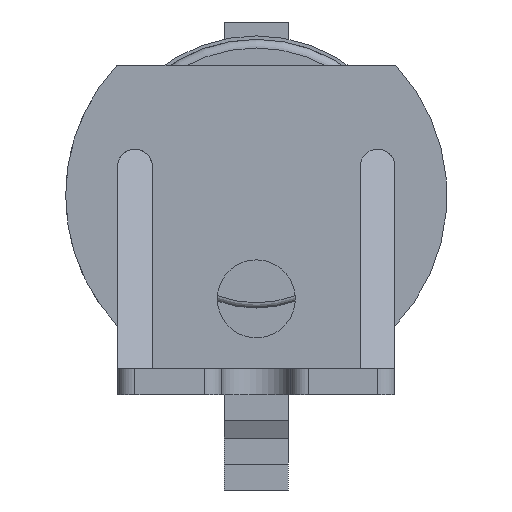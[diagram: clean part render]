
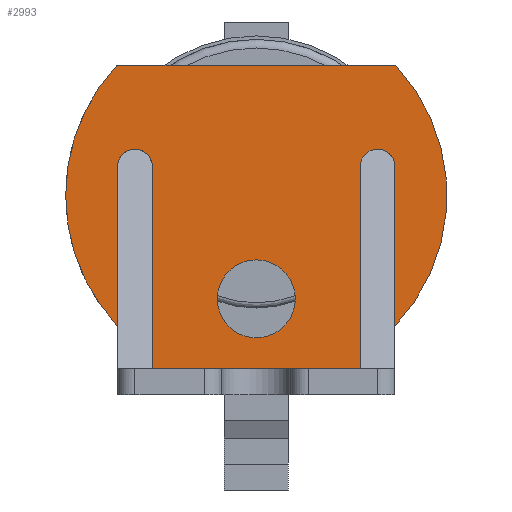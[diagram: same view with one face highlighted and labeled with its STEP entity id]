
A CAD part, left-side view. The second image highlights one B-rep face of the part: STEP entity #2993.
In plain terms, the highlighted planar face has unit normal (-1, 0, 0).
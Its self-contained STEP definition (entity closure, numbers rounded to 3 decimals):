
#999=CARTESIAN_POINT('',(4.,7.,13.161));
#1000=DIRECTION('',(1.,0.,0.));
#1001=DIRECTION('',(0.,1.,0.));
#1002=AXIS2_PLACEMENT_3D('',#999,#1000,#1001);
#1004=CARTESIAN_POINT('',(4.,0.,11.5));
#1005=DIRECTION('',(-1.,0.,0.));
#1006=DIRECTION('',(0.,1.,0.));
#1007=AXIS2_PLACEMENT_3D('',#1004,#1005,#1006);
#1009=CARTESIAN_POINT('',(4.,0.,11.5));
#1010=DIRECTION('',(-1.,0.,0.));
#1011=DIRECTION('',(0.,0.732,0.682));
#1012=AXIS2_PLACEMENT_3D('',#1009,#1010,#1011);
#1014=DIRECTION('',(0.,1.,0.));
#1015=VECTOR('',#1014,16.093);
#1016=CARTESIAN_POINT('',(4.,-8.047,19.));
#1017=LINE('',#1016,#1015);
#1018=CARTESIAN_POINT('',(4.,0.,11.5));
#1019=DIRECTION('',(-1.,0.,0.));
#1020=DIRECTION('',(0.,-0.727,-0.686));
#1021=AXIS2_PLACEMENT_3D('',#1018,#1019,#1020);
#1023=DIRECTION('',(0.,0.,-1.));
#1024=VECTOR('',#1023,9.211);
#1025=CARTESIAN_POINT('',(4.,-8.,13.161));
#1026=LINE('',#1025,#1024);
#1027=CARTESIAN_POINT('',(4.,-7.,13.161));
#1028=DIRECTION('',(1.,0.,0.));
#1029=DIRECTION('',(0.,0.,1.));
#1030=AXIS2_PLACEMENT_3D('',#1027,#1028,#1029);
#1032=CARTESIAN_POINT('',(4.,-7.,13.161));
#1033=DIRECTION('',(1.,0.,0.));
#1034=DIRECTION('',(0.,1.,0.));
#1035=AXIS2_PLACEMENT_3D('',#1032,#1033,#1034);
#1037=DIRECTION('',(0.,0.,-1.));
#1038=VECTOR('',#1037,11.661);
#1039=CARTESIAN_POINT('',(4.,6.,13.161));
#1040=LINE('',#1039,#1038);
#1041=CARTESIAN_POINT('',(4.,7.,13.161));
#1042=DIRECTION('',(1.,0.,0.));
#1043=DIRECTION('',(0.,0.,1.));
#1044=AXIS2_PLACEMENT_3D('',#1041,#1042,#1043);
#1046=CARTESIAN_POINT('',(4.,0.,5.53));
#1047=DIRECTION('',(1.,0.,0.));
#1048=DIRECTION('',(0.,1.,0.));
#1049=AXIS2_PLACEMENT_3D('',#1046,#1047,#1048);
#1051=CARTESIAN_POINT('',(4.,0.,5.53));
#1052=DIRECTION('',(1.,0.,0.));
#1053=DIRECTION('',(0.,-1.,0.));
#1054=AXIS2_PLACEMENT_3D('',#1051,#1052,#1053);
#1064=DIRECTION('',(0.,0.,-1.));
#1065=VECTOR('',#1064,9.211);
#1066=CARTESIAN_POINT('',(4.,8.,13.161));
#1067=LINE('',#1066,#1065);
#1076=DIRECTION('',(0.,1.,0.));
#1077=VECTOR('',#1076,12.);
#1078=CARTESIAN_POINT('',(4.,-6.,1.5));
#1079=LINE('',#1078,#1077);
#1137=CARTESIAN_POINT('',(4.,7.,14.161));
#1153=DIRECTION('',(0.,0.,-1.));
#1154=VECTOR('',#1153,11.661);
#1155=CARTESIAN_POINT('',(4.,-6.,13.161));
#1156=LINE('',#1155,#1154);
#1157=CARTESIAN_POINT('',(4.,-7.,14.161));
#1447=VERTEX_POINT('',#1137);
#1453=VERTEX_POINT('',#1157);
#1454=CARTESIAN_POINT('',(4.,-6.,13.161));
#1455=VERTEX_POINT('',#1454);
#1534=CARTESIAN_POINT('',(4.,8.047,19.));
#1536=VERTEX_POINT('',#1534);
#1540=CARTESIAN_POINT('',(4.,-6.,1.5));
#1541=VERTEX_POINT('',#1540);
#1564=CARTESIAN_POINT('',(4.,-8.,3.95));
#1566=VERTEX_POINT('',#1564);
#1584=CARTESIAN_POINT('',(4.,-8.047,19.));
#1585=VERTEX_POINT('',#1584);
#1592=CARTESIAN_POINT('',(4.,6.,1.5));
#1593=VERTEX_POINT('',#1592);
#1594=CARTESIAN_POINT('',(4.,2.25,5.53));
#1595=CARTESIAN_POINT('',(4.,-2.25,5.53));
#1596=VERTEX_POINT('',#1594);
#1597=VERTEX_POINT('',#1595);
#1598=CARTESIAN_POINT('',(4.,8.,13.161));
#1599=CARTESIAN_POINT('',(4.,8.,3.95));
#1600=VERTEX_POINT('',#1598);
#1601=VERTEX_POINT('',#1599);
#1602=CARTESIAN_POINT('',(4.,11.,11.5));
#1603=VERTEX_POINT('',#1602);
#1604=CARTESIAN_POINT('',(4.,-8.,13.161));
#1605=VERTEX_POINT('',#1604);
#1606=CARTESIAN_POINT('',(4.,6.,13.161));
#1607=VERTEX_POINT('',#1606);
#2957=CARTESIAN_POINT('',(4.,0.,11.5));
#2958=DIRECTION('',(-1.,0.,0.));
#2959=DIRECTION('',(0.,-1.,0.));
#2960=AXIS2_PLACEMENT_3D('',#2957,#2958,#2959);
#2961=PLANE('',#2960);
#2963=ORIENTED_EDGE('',*,*,#2962,.F.);
#2965=ORIENTED_EDGE('',*,*,#2964,.T.);
#2966=ORIENTED_EDGE('',*,*,#2948,.F.);
#2967=ORIENTED_EDGE('',*,*,#2938,.F.);
#2968=ORIENTED_EDGE('',*,*,#2924,.F.);
#2970=ORIENTED_EDGE('',*,*,#2969,.F.);
#2972=ORIENTED_EDGE('',*,*,#2971,.F.);
#2974=ORIENTED_EDGE('',*,*,#2973,.F.);
#2976=ORIENTED_EDGE('',*,*,#2975,.F.);
#2978=ORIENTED_EDGE('',*,*,#2977,.T.);
#2980=ORIENTED_EDGE('',*,*,#2979,.T.);
#2982=ORIENTED_EDGE('',*,*,#2981,.F.);
#2984=ORIENTED_EDGE('',*,*,#2983,.F.);
#2985=EDGE_LOOP('',(#2963,#2965,#2966,#2967,#2968,#2970,#2972,#2974,#2976,#2978,
#2980,#2982,#2984));
#2986=FACE_OUTER_BOUND('',#2985,.F.);
#2988=ORIENTED_EDGE('',*,*,#2987,.F.);
#2990=ORIENTED_EDGE('',*,*,#2989,.F.);
#2991=EDGE_LOOP('',(#2988,#2990));
#2992=FACE_BOUND('',#2991,.F.);
#2993=ADVANCED_FACE('',(#2986,#2992),#2961,.T.);
#1003=CIRCLE('',#1002,1.);
#1008=CIRCLE('',#1007,11.);
#1013=CIRCLE('',#1012,11.);
#1022=CIRCLE('',#1021,11.);
#1031=CIRCLE('',#1030,1.);
#1036=CIRCLE('',#1035,1.);
#1045=CIRCLE('',#1044,1.);
#1050=CIRCLE('',#1049,2.25);
#1055=CIRCLE('',#1054,2.25);
#2924=EDGE_CURVE('',#1585,#1536,#1017,.T.);
#2938=EDGE_CURVE('',#1536,#1603,#1013,.T.);
#2948=EDGE_CURVE('',#1603,#1601,#1008,.T.);
#2962=EDGE_CURVE('',#1600,#1447,#1003,.T.);
#2964=EDGE_CURVE('',#1600,#1601,#1067,.T.);
#2969=EDGE_CURVE('',#1566,#1585,#1022,.T.);
#2971=EDGE_CURVE('',#1605,#1566,#1026,.T.);
#2973=EDGE_CURVE('',#1453,#1605,#1031,.T.);
#2975=EDGE_CURVE('',#1455,#1453,#1036,.T.);
#2977=EDGE_CURVE('',#1455,#1541,#1156,.T.);
#2979=EDGE_CURVE('',#1541,#1593,#1079,.T.);
#2981=EDGE_CURVE('',#1607,#1593,#1040,.T.);
#2983=EDGE_CURVE('',#1447,#1607,#1045,.T.);
#2987=EDGE_CURVE('',#1596,#1597,#1050,.T.);
#2989=EDGE_CURVE('',#1597,#1596,#1055,.T.);
